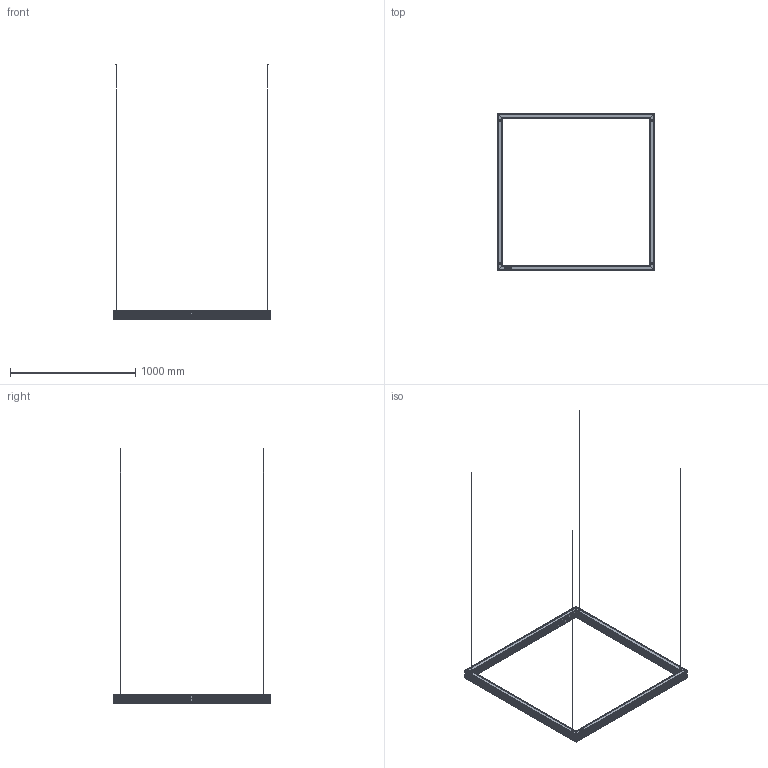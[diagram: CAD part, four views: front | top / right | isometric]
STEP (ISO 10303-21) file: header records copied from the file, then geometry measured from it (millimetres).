
FILE_DESCRIPTION(/* description */ ('Unknown'),/* implementation_level */ '2;1');
FILE_NAME(/* name */ 'TOUR QD 49.4',/* time_stamp */ '2023-01-24T08:53:02-05:00',/* author */ ('Unknown'),/* organization */ ('Unknown'),/* preprocessor_version */ 'ST-DEVELOPER v18.1',/* originating_system */ 'Solid Edge',/* authorisation */ 'Unknown');
FILE_SCHEMA (('AUTOMOTIVE_DESIGN {1 0 10303 214 3 1 1}'));
Length unit declared in the file: millimetre
Products named in the file (1): TOUR QD 49.4
Bounding box: 1256 x 1256 x 2031.77 mm (x, y, z)
Volume: 4239736.3 mm3; surface area: 3449385.4 mm2
Topology: 21 solids, 21 shells, 1628 faces, 4724 edges, 3150 vertices
Faces by surface type: plane 946, cylinder 670, bspline 12
Full cylindrical faces by diameter (mm): 2.8 x4, 3 x4, 3.5 x2, 15 x4
Entity records: 54604 total; most frequent: CARTESIAN_POINT 10457, ORIENTED_EDGE 9408, DIRECTION 9150, EDGE_CURVE 4704, LINE 3268, VECTOR 3268, VERTEX_POINT 3148, AXIS2_PLACEMENT_3D 2941
